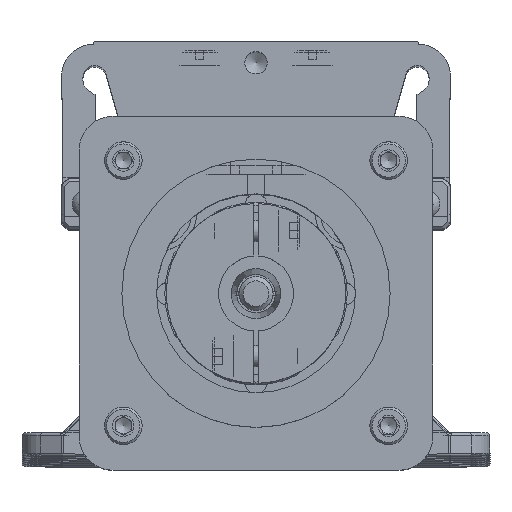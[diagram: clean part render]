
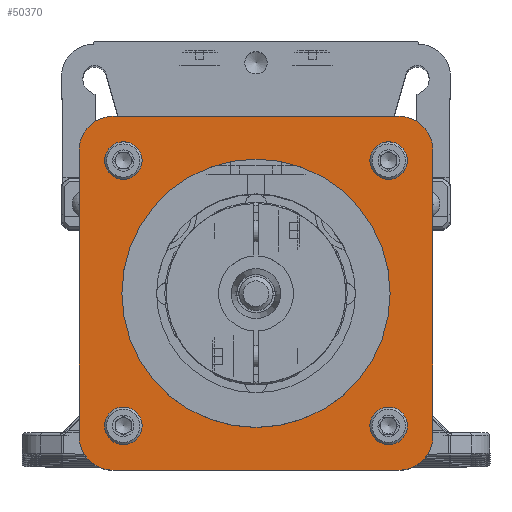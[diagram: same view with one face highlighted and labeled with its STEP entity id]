
A CAD part, top view. The second image highlights one B-rep face of the part: STEP entity #50370.
In plain terms, the highlighted planar face has unit normal (0, 0, 1).
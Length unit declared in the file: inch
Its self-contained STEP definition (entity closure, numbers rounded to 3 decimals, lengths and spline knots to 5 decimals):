
#846 = CARTESIAN_POINT ( 'NONE',  ( 1.05, -1.3, 2.8031 ) ) ;
#1776 = ORIENTED_EDGE ( 'NONE', *, *, #41086, .T. ) ;
#2166 = EDGE_LOOP ( 'NONE', ( #4203 ) ) ;
#2221 = DIRECTION ( 'NONE',  ( 0., 0., 1. ) ) ;
#2630 = CARTESIAN_POINT ( 'NONE',  ( -1.05, 1.3, 2.8031 ) ) ;
#2737 = CARTESIAN_POINT ( 'NONE',  ( -0.97436, 0.97436, 2.8031 ) ) ;
#2868 = CIRCLE ( 'NONE', #18654, 0.07875 ) ;
#3055 = DIRECTION ( 'NONE',  ( 0., -1., 0. ) ) ;
#3271 = DIRECTION ( 'NONE',  ( 0., 0., 1. ) ) ;
#3343 = ORIENTED_EDGE ( 'NONE', *, *, #49042, .T. ) ;
#4123 = ORIENTED_EDGE ( 'NONE', *, *, #17633, .T. ) ;
#4203 = ORIENTED_EDGE ( 'NONE', *, *, #23072, .F. ) ;
#4363 = EDGE_CURVE ( 'NONE', #21431, #21431, #48713, .T. ) ;
#4734 = DIRECTION ( 'NONE',  ( 1., 0., 0. ) ) ;
#4881 = CARTESIAN_POINT ( 'NONE',  ( -0.97436, 1.05311, 2.8031 ) ) ;
#5207 = CARTESIAN_POINT ( 'NONE',  ( 0., 0., 2.8031 ) ) ;
#6486 = EDGE_CURVE ( 'NONE', #45330, #45330, #34239, .T. ) ;
#7100 = DIRECTION ( 'NONE',  ( 1., 0., 0. ) ) ;
#7213 = LINE ( 'NONE', #23327, #34458 ) ;
#7362 = CARTESIAN_POINT ( 'NONE',  ( 1.05, 1.05, 2.8031 ) ) ;
#8054 = DIRECTION ( 'NONE',  ( 0., 1., 0. ) ) ;
#8612 = CIRCLE ( 'NONE', #37644, 0.25 ) ;
#8869 = DIRECTION ( 'NONE',  ( 0., 0., 1. ) ) ;
#8950 = EDGE_CURVE ( 'NONE', #38821, #46306, #7213, .T. ) ;
#9950 = DIRECTION ( 'NONE',  ( 0., 0., 1. ) ) ;
#11177 = DIRECTION ( 'NONE',  ( 0., 0., 1. ) ) ;
#11990 = LINE ( 'NONE', #40048, #28111 ) ;
#12294 = CARTESIAN_POINT ( 'NONE',  ( -1.71016, 1.625, 2.8031 ) ) ;
#13043 = FACE_BOUND ( 'NONE', #34797, .T. ) ;
#13288 = DIRECTION ( 'NONE',  ( 1., 0., 0. ) ) ;
#13291 = ORIENTED_EDGE ( 'NONE', *, *, #6486, .F. ) ;
#13595 = AXIS2_PLACEMENT_3D ( 'NONE', #49771, #42771, #22767 ) ;
#13743 = VERTEX_POINT ( 'NONE', #846 ) ;
#13912 = DIRECTION ( 'NONE',  ( -1., 0., 0. ) ) ;
#14223 = CARTESIAN_POINT ( 'NONE',  ( 1.3, -1.05, 2.8031 ) ) ;
#14326 = LINE ( 'NONE', #2630, #24009 ) ;
#14427 = CARTESIAN_POINT ( 'NONE',  ( 1.05, -1.05, 2.8031 ) ) ;
#17161 = VERTEX_POINT ( 'NONE', #38292 ) ;
#17404 = ORIENTED_EDGE ( 'NONE', *, *, #28914, .T. ) ;
#17586 = EDGE_LOOP ( 'NONE', ( #36972 ) ) ;
#17633 = EDGE_CURVE ( 'NONE', #31289, #48326, #14326, .T. ) ;
#18654 = AXIS2_PLACEMENT_3D ( 'NONE', #2737, #43509, #43259 ) ;
#19617 = VERTEX_POINT ( 'NONE', #14223 ) ;
#19622 = DIRECTION ( 'NONE',  ( 0., 0., 1. ) ) ;
#20128 = CARTESIAN_POINT ( 'NONE',  ( -1.3, -1.05, 2.8031 ) ) ;
#21431 = VERTEX_POINT ( 'NONE', #45066 ) ;
#22767 = DIRECTION ( 'NONE',  ( 0., -1., 0. ) ) ;
#22964 = DIRECTION ( 'NONE',  ( 0., 0., 1. ) ) ;
#23015 = AXIS2_PLACEMENT_3D ( 'NONE', #39748, #11177, #47529 ) ;
#23072 = EDGE_CURVE ( 'NONE', #40306, #40306, #40954, .T. ) ;
#23327 = CARTESIAN_POINT ( 'NONE',  ( -1.3, 1.05, 2.8031 ) ) ;
#23494 = AXIS2_PLACEMENT_3D ( 'NONE', #41205, #2221, #45874 ) ;
#24009 = VECTOR ( 'NONE', #46539, 39.37008 ) ;
#24499 = FACE_OUTER_BOUND ( 'NONE', #44359, .T. ) ;
#24746 = FACE_BOUND ( 'NONE', #27723, .T. ) ;
#25309 = ORIENTED_EDGE ( 'NONE', *, *, #35757, .T. ) ;
#25788 = DIRECTION ( 'NONE',  ( 1., 0., 0. ) ) ;
#26992 = CARTESIAN_POINT ( 'NONE',  ( -1.3, 1.05, 2.8031 ) ) ;
#27723 = EDGE_LOOP ( 'NONE', ( #29839 ) ) ;
#27784 = CARTESIAN_POINT ( 'NONE',  ( -1.05, 1.3, 2.8031 ) ) ;
#28087 = AXIS2_PLACEMENT_3D ( 'NONE', #7362, #22964, #7100 ) ;
#28111 = VECTOR ( 'NONE', #39033, 39.37008 ) ;
#28176 = CARTESIAN_POINT ( 'NONE',  ( -1.05, 1.05, 2.8031 ) ) ;
#28343 = CARTESIAN_POINT ( 'NONE',  ( 0.97436, -1.05311, 2.8031 ) ) ;
#28914 = EDGE_CURVE ( 'NONE', #46306, #45448, #50804, .T. ) ;
#29243 = CARTESIAN_POINT ( 'NONE',  ( 1.05, 1.3, 2.8031 ) ) ;
#29839 = ORIENTED_EDGE ( 'NONE', *, *, #32508, .F. ) ;
#31289 = VERTEX_POINT ( 'NONE', #29243 ) ;
#32031 = FACE_BOUND ( 'NONE', #38304, .T. ) ;
#32508 = EDGE_CURVE ( 'NONE', #36830, #36830, #2868, .T. ) ;
#32974 = AXIS2_PLACEMENT_3D ( 'NONE', #5207, #8869, #13288 ) ;
#33625 = EDGE_CURVE ( 'NONE', #48326, #38821, #8612, .T. ) ;
#34239 = CIRCLE ( 'NONE', #23494, 0.07875 ) ;
#34458 = VECTOR ( 'NONE', #3055, 39.37008 ) ;
#34797 = EDGE_LOOP ( 'NONE', ( #13291 ) ) ;
#34904 = AXIS2_PLACEMENT_3D ( 'NONE', #14427, #49487, #13912 ) ;
#35043 = AXIS2_PLACEMENT_3D ( 'NONE', #41912, #9950, #25788 ) ;
#35757 = EDGE_CURVE ( 'NONE', #19617, #17161, #47549, .T. ) ;
#36443 = FACE_BOUND ( 'NONE', #2166, .T. ) ;
#36684 = PLANE ( 'NONE',  #41478 ) ;
#36830 = VERTEX_POINT ( 'NONE', #4881 ) ;
#36972 = ORIENTED_EDGE ( 'NONE', *, *, #4363, .F. ) ;
#37124 = CIRCLE ( 'NONE', #32974, 0.98525 ) ;
#37644 = AXIS2_PLACEMENT_3D ( 'NONE', #28176, #19622, #44038 ) ;
#37651 = ORIENTED_EDGE ( 'NONE', *, *, #33625, .T. ) ;
#37842 = ORIENTED_EDGE ( 'NONE', *, *, #38391, .T. ) ;
#38292 = CARTESIAN_POINT ( 'NONE',  ( 1.3, 1.05, 2.8031 ) ) ;
#38304 = EDGE_LOOP ( 'NONE', ( #51340 ) ) ;
#38391 = EDGE_CURVE ( 'NONE', #45448, #13743, #11990, .T. ) ;
#38821 = VERTEX_POINT ( 'NONE', #26992 ) ;
#38871 = FACE_BOUND ( 'NONE', #17586, .T. ) ;
#39033 = DIRECTION ( 'NONE',  ( 1., 0., 0. ) ) ;
#39748 = CARTESIAN_POINT ( 'NONE',  ( -0.97436, -0.97436, 2.8031 ) ) ;
#39803 = CARTESIAN_POINT ( 'NONE',  ( 0.98525, 0., 2.8031 ) ) ;
#39843 = CIRCLE ( 'NONE', #34904, 0.25 ) ;
#40048 = CARTESIAN_POINT ( 'NONE',  ( -1.05, -1.3, 2.8031 ) ) ;
#40306 = VERTEX_POINT ( 'NONE', #28343 ) ;
#40313 = VERTEX_POINT ( 'NONE', #39803 ) ;
#40748 = CARTESIAN_POINT ( 'NONE',  ( -1.05, -1.3, 2.8031 ) ) ;
#40954 = CIRCLE ( 'NONE', #13595, 0.07875 ) ;
#41086 = EDGE_CURVE ( 'NONE', #13743, #19617, #39843, .T. ) ;
#41205 = CARTESIAN_POINT ( 'NONE',  ( 0.97436, 0.97436, 2.8031 ) ) ;
#41478 = AXIS2_PLACEMENT_3D ( 'NONE', #12294, #3271, #4734 ) ;
#41912 = CARTESIAN_POINT ( 'NONE',  ( -1.05, -1.05, 2.8031 ) ) ;
#42771 = DIRECTION ( 'NONE',  ( 0., 0., 1. ) ) ;
#42870 = VECTOR ( 'NONE', #8054, 39.37008 ) ;
#43259 = DIRECTION ( 'NONE',  ( 0., 1., 0. ) ) ;
#43509 = DIRECTION ( 'NONE',  ( 0., 0., 1. ) ) ;
#43656 = CARTESIAN_POINT ( 'NONE',  ( 1.3, 1.05, 2.8031 ) ) ;
#44038 = DIRECTION ( 'NONE',  ( -1., 0., 0. ) ) ;
#44359 = EDGE_LOOP ( 'NONE', ( #25309, #3343, #4123, #37651, #46155, #17404, #37842, #1776 ) ) ;
#45066 = CARTESIAN_POINT ( 'NONE',  ( -1.05311, -0.97436, 2.8031 ) ) ;
#45330 = VERTEX_POINT ( 'NONE', #49217 ) ;
#45448 = VERTEX_POINT ( 'NONE', #40748 ) ;
#45874 = DIRECTION ( 'NONE',  ( 1., 0., 0. ) ) ;
#46155 = ORIENTED_EDGE ( 'NONE', *, *, #8950, .T. ) ;
#46306 = VERTEX_POINT ( 'NONE', #20128 ) ;
#46539 = DIRECTION ( 'NONE',  ( -1., 0., 0. ) ) ;
#47529 = DIRECTION ( 'NONE',  ( -1., 0., 0. ) ) ;
#47549 = LINE ( 'NONE', #43656, #42870 ) ;
#48007 = CIRCLE ( 'NONE', #28087, 0.25 ) ;
#48117 = EDGE_CURVE ( 'NONE', #40313, #40313, #37124, .T. ) ;
#48326 = VERTEX_POINT ( 'NONE', #27784 ) ;
#48713 = CIRCLE ( 'NONE', #23015, 0.07875 ) ;
#49042 = EDGE_CURVE ( 'NONE', #17161, #31289, #48007, .T. ) ;
#49217 = CARTESIAN_POINT ( 'NONE',  ( 1.05311, 0.97436, 2.8031 ) ) ;
#49487 = DIRECTION ( 'NONE',  ( 0., 0., 1. ) ) ;
#49771 = CARTESIAN_POINT ( 'NONE',  ( 0.97436, -0.97436, 2.8031 ) ) ;
#50370 = ADVANCED_FACE ( 'NONE', ( #24746, #38871, #36443, #13043, #24499, #32031 ), #36684, .T. ) ;
#50804 = CIRCLE ( 'NONE', #35043, 0.25 ) ;
#51340 = ORIENTED_EDGE ( 'NONE', *, *, #48117, .F. ) ;
